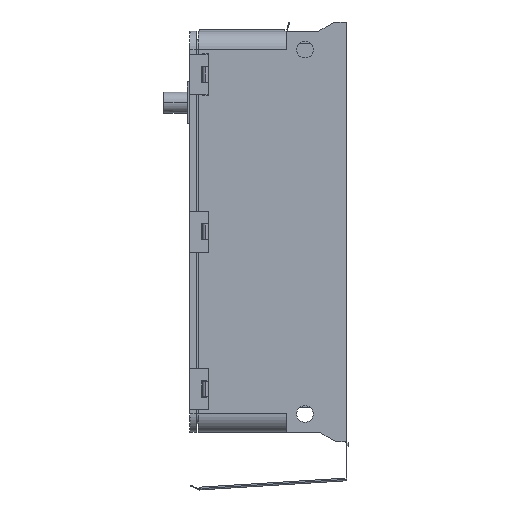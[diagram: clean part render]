
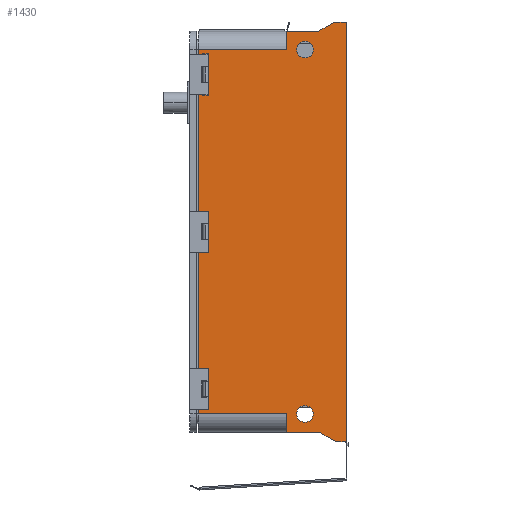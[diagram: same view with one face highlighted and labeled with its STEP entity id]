
A CAD part, left-side view. The second image highlights one B-rep face of the part: STEP entity #1430.
In plain terms, the highlighted planar face has unit normal (-1, 0, 0).
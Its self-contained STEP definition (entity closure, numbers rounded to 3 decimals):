
#1430=ADVANCED_FACE('',(#5397,#5398,#5399,#5400,#5401,#5402),#5403,.F.);
#5397=FACE_OUTER_BOUND('',#10780,.T.);
#5398=FACE_BOUND('',#10781,.T.);
#5399=FACE_BOUND('',#10782,.T.);
#5400=FACE_BOUND('',#10783,.T.);
#5401=FACE_BOUND('',#10784,.T.);
#5402=FACE_BOUND('',#10785,.T.);
#5403=PLANE('',#10786);
#10780=EDGE_LOOP('',(#29598,#29599,#29600,#29601,#29602,#29603,#29604,#29605,#29606,#29607,#29608,#29609));
#10781=EDGE_LOOP('',(#29610,#29611));
#10782=EDGE_LOOP('',(#29612,#29613));
#10783=EDGE_LOOP('',(#29614,#29615,#29616,#29617));
#10784=EDGE_LOOP('',(#29618,#29619,#29620,#29621));
#10785=EDGE_LOOP('',(#29622,#29623,#29624,#29625));
#10786=AXIS2_PLACEMENT_3D('',#29626,#29627,#29628);
#29598=ORIENTED_EDGE('',*,*,#41015,.F.);
#29599=ORIENTED_EDGE('',*,*,#42736,.F.);
#29600=ORIENTED_EDGE('',*,*,#42734,.F.);
#29601=ORIENTED_EDGE('',*,*,#42756,.T.);
#29602=ORIENTED_EDGE('',*,*,#42746,.T.);
#29603=ORIENTED_EDGE('',*,*,#42762,.F.);
#29604=ORIENTED_EDGE('',*,*,#42763,.F.);
#29605=ORIENTED_EDGE('',*,*,#40959,.F.);
#29606=ORIENTED_EDGE('',*,*,#40957,.T.);
#29607=ORIENTED_EDGE('',*,*,#42764,.F.);
#29608=ORIENTED_EDGE('',*,*,#42765,.T.);
#29609=ORIENTED_EDGE('',*,*,#42766,.F.);
#29610=ORIENTED_EDGE('',*,*,#42767,.F.);
#29611=ORIENTED_EDGE('',*,*,#42768,.F.);
#29612=ORIENTED_EDGE('',*,*,#42769,.F.);
#29613=ORIENTED_EDGE('',*,*,#42770,.F.);
#29614=ORIENTED_EDGE('',*,*,#42771,.T.);
#29615=ORIENTED_EDGE('',*,*,#42772,.T.);
#29616=ORIENTED_EDGE('',*,*,#42773,.T.);
#29617=ORIENTED_EDGE('',*,*,#42774,.T.);
#29618=ORIENTED_EDGE('',*,*,#42775,.T.);
#29619=ORIENTED_EDGE('',*,*,#42776,.T.);
#29620=ORIENTED_EDGE('',*,*,#42777,.T.);
#29621=ORIENTED_EDGE('',*,*,#42778,.T.);
#29622=ORIENTED_EDGE('',*,*,#42779,.T.);
#29623=ORIENTED_EDGE('',*,*,#42780,.T.);
#29624=ORIENTED_EDGE('',*,*,#42781,.T.);
#29625=ORIENTED_EDGE('',*,*,#42782,.T.);
#29626=CARTESIAN_POINT('',(-145.0,158.75,-203.0));
#29627=DIRECTION('',(1.0,0.0,0.0));
#29628=DIRECTION('',(0.0,1.0,0.0));
#40957=EDGE_CURVE('',#49167,#49165,#49168,.T.);
#40959=EDGE_CURVE('',#49167,#49170,#49171,.T.);
#41015=EDGE_CURVE('',#49274,#49276,#49277,.T.);
#42734=EDGE_CURVE('',#52035,#52037,#52038,.T.);
#42736=EDGE_CURVE('',#52037,#49274,#52040,.T.);
#42746=EDGE_CURVE('',#52057,#52055,#52058,.T.);
#42756=EDGE_CURVE('',#52035,#52057,#52072,.T.);
#42762=EDGE_CURVE('',#52081,#52055,#52082,.T.);
#42763=EDGE_CURVE('',#49170,#52081,#52083,.T.);
#42764=EDGE_CURVE('',#52084,#49165,#52085,.T.);
#42765=EDGE_CURVE('',#52084,#52086,#52087,.T.);
#42766=EDGE_CURVE('',#49276,#52086,#52088,.T.);
#42767=EDGE_CURVE('',#52089,#52090,#52091,.T.);
#42768=EDGE_CURVE('',#52090,#52089,#52092,.T.);
#42769=EDGE_CURVE('',#52093,#52094,#52095,.T.);
#42770=EDGE_CURVE('',#52094,#52093,#52096,.T.);
#42771=EDGE_CURVE('',#52097,#52098,#52099,.T.);
#42772=EDGE_CURVE('',#52098,#52100,#52101,.T.);
#42773=EDGE_CURVE('',#52100,#52102,#52103,.T.);
#42774=EDGE_CURVE('',#52102,#52097,#52104,.T.);
#42775=EDGE_CURVE('',#52105,#52106,#52107,.T.);
#42776=EDGE_CURVE('',#52106,#52108,#52109,.T.);
#42777=EDGE_CURVE('',#52108,#52110,#52111,.T.);
#42778=EDGE_CURVE('',#52110,#52105,#52112,.T.);
#42779=EDGE_CURVE('',#52113,#52114,#52115,.T.);
#42780=EDGE_CURVE('',#52114,#52116,#52117,.T.);
#42781=EDGE_CURVE('',#52116,#52118,#52119,.T.);
#42782=EDGE_CURVE('',#52118,#52113,#52120,.T.);
#49165=VERTEX_POINT('',#62113);
#49167=VERTEX_POINT('',#62115);
#49168=LINE('',#62116,#62117);
#49170=VERTEX_POINT('',#62119);
#49171=LINE('',#62120,#62121);
#49274=VERTEX_POINT('',#62272);
#49276=VERTEX_POINT('',#62275);
#49277=LINE('',#62276,#62277);
#52035=VERTEX_POINT('',#66464);
#52037=VERTEX_POINT('',#66467);
#52038=LINE('',#66468,#66469);
#52040=LINE('',#66472,#66473);
#52055=VERTEX_POINT('',#66492);
#52057=VERTEX_POINT('',#66495);
#52058=LINE('',#66496,#66497);
#52072=LINE('',#66519,#66520);
#52081=VERTEX_POINT('',#66531);
#52082=LINE('',#66532,#66533);
#52083=LINE('',#66534,#66535);
#52084=VERTEX_POINT('',#66536);
#52085=LINE('',#66537,#66538);
#52086=VERTEX_POINT('',#66539);
#52087=LINE('',#66540,#66541);
#52088=LINE('',#66542,#66543);
#52089=VERTEX_POINT('',#66544);
#52090=VERTEX_POINT('',#66545);
#52091=CIRCLE('',#66546,18.0);
#52092=CIRCLE('',#66547,18.0);
#52093=VERTEX_POINT('',#66548);
#52094=VERTEX_POINT('',#66549);
#52095=CIRCLE('',#66550,18.0);
#52096=CIRCLE('',#66551,18.0);
#52097=VERTEX_POINT('',#66552);
#52098=VERTEX_POINT('',#66553);
#52099=LINE('',#66554,#66555);
#52100=VERTEX_POINT('',#66556);
#52101=LINE('',#66557,#66558);
#52102=VERTEX_POINT('',#66559);
#52103=LINE('',#66560,#66561);
#52104=LINE('',#66562,#66563);
#52105=VERTEX_POINT('',#66564);
#52106=VERTEX_POINT('',#66565);
#52107=LINE('',#66566,#66567);
#52108=VERTEX_POINT('',#66568);
#52109=LINE('',#66569,#66570);
#52110=VERTEX_POINT('',#66571);
#52111=LINE('',#66572,#66573);
#52112=LINE('',#66574,#66575);
#52113=VERTEX_POINT('',#66576);
#52114=VERTEX_POINT('',#66577);
#52115=LINE('',#66578,#66579);
#52116=VERTEX_POINT('',#66580);
#52117=LINE('',#66581,#66582);
#52118=VERTEX_POINT('',#66583);
#52119=LINE('',#66584,#66585);
#52120=LINE('',#66586,#66587);
#62113=CARTESIAN_POINT('',(-145.0,319.5,192.0));
#62115=CARTESIAN_POINT('',(-145.0,128.0,192.0));
#62116=CARTESIAN_POINT('',(-145.0,128.0,192.0));
#62117=VECTOR('',#78533,191.5);
#62119=CARTESIAN_POINT('',(-145.0,128.0,232.0));
#62120=CARTESIAN_POINT('',(-145.0,128.0,192.0));
#62121=VECTOR('',#78537,40.0);
#62272=CARTESIAN_POINT('',(-145.0,56.0,-638.0));
#62275=CARTESIAN_POINT('',(-145.0,128.0,-638.0));
#62276=CARTESIAN_POINT('',(-145.0,56.0,-638.0));
#62277=VECTOR('',#78605,72.0);
#66464=CARTESIAN_POINT('',(-145.0,-2.0,-658.0));
#66467=CARTESIAN_POINT('',(-145.0,21.359,-658.0));
#66468=CARTESIAN_POINT('',(-145.0,-2.0,-658.0));
#66469=VECTOR('',#81104,23.359);
#66472=CARTESIAN_POINT('',(-145.0,21.359,-658.0));
#66473=VECTOR('',#81106,40.0);
#66492=CARTESIAN_POINT('',(-145.0,23.359,252.0));
#66495=CARTESIAN_POINT('',(-145.0,-2.0,252.0));
#66496=CARTESIAN_POINT('',(-145.0,-2.0,252.0));
#66497=VECTOR('',#81124,25.359);
#66519=CARTESIAN_POINT('',(-145.0,-2.0,-658.0));
#66520=VECTOR('',#81136,910.0);
#66531=CARTESIAN_POINT('',(-145.0,58.0,232.0));
#66532=CARTESIAN_POINT('',(-145.0,58.0,232.0));
#66533=VECTOR('',#81148,40.0);
#66534=CARTESIAN_POINT('',(-145.0,128.0,232.0));
#66535=VECTOR('',#81149,70.0);
#66536=CARTESIAN_POINT('',(-145.0,319.5,-598.0));
#66537=CARTESIAN_POINT('',(-145.0,319.5,-598.0));
#66538=VECTOR('',#81150,790.0);
#66539=CARTESIAN_POINT('',(-145.0,128.0,-598.0));
#66540=CARTESIAN_POINT('',(-145.0,319.5,-598.0));
#66541=VECTOR('',#81151,191.5);
#66542=CARTESIAN_POINT('',(-145.0,128.0,-638.0));
#66543=VECTOR('',#81152,40.0);
#66544=CARTESIAN_POINT('',(-145.0,88.0,174.0));
#66545=CARTESIAN_POINT('',(-145.0,88.0,210.0));
#66546=AXIS2_PLACEMENT_3D('',#81153,#81154,#81155);
#66547=AXIS2_PLACEMENT_3D('',#81156,#81157,#81158);
#66548=CARTESIAN_POINT('',(-145.0,88.0,-616.0));
#66549=CARTESIAN_POINT('',(-145.0,88.0,-580.0));
#66550=AXIS2_PLACEMENT_3D('',#81159,#81160,#81161);
#66551=AXIS2_PLACEMENT_3D('',#81162,#81163,#81164);
#66552=CARTESIAN_POINT('',(-145.0,309.3,-589.0));
#66553=CARTESIAN_POINT('',(-145.0,309.3,-499.0));
#66554=CARTESIAN_POINT('',(-145.0,309.3,-589.0));
#66555=VECTOR('',#81165,90.0);
#66556=CARTESIAN_POINT('',(-145.0,297.6,-499.0));
#66557=CARTESIAN_POINT('',(-145.0,309.3,-499.0));
#66558=VECTOR('',#81166,11.7);
#66559=CARTESIAN_POINT('',(-145.0,297.6,-589.0));
#66560=CARTESIAN_POINT('',(-145.0,297.6,-499.0));
#66561=VECTOR('',#81167,90.0);
#66562=CARTESIAN_POINT('',(-145.0,297.6,-589.0));
#66563=VECTOR('',#81168,11.7);
#66564=CARTESIAN_POINT('',(-145.0,309.3,-248.0));
#66565=CARTESIAN_POINT('',(-145.0,309.3,-158.0));
#66566=CARTESIAN_POINT('',(-145.0,309.3,-248.0));
#66567=VECTOR('',#81169,90.0);
#66568=CARTESIAN_POINT('',(-145.0,297.6,-158.0));
#66569=CARTESIAN_POINT('',(-145.0,309.3,-158.0));
#66570=VECTOR('',#81170,11.7);
#66571=CARTESIAN_POINT('',(-145.0,297.6,-248.0));
#66572=CARTESIAN_POINT('',(-145.0,297.6,-158.0));
#66573=VECTOR('',#81171,90.0);
#66574=CARTESIAN_POINT('',(-145.0,297.6,-248.0));
#66575=VECTOR('',#81172,11.7);
#66576=CARTESIAN_POINT('',(-145.0,309.3,93.0));
#66577=CARTESIAN_POINT('',(-145.0,309.3,183.0));
#66578=CARTESIAN_POINT('',(-145.0,309.3,93.0));
#66579=VECTOR('',#81173,90.0);
#66580=CARTESIAN_POINT('',(-145.0,297.6,183.0));
#66581=CARTESIAN_POINT('',(-145.0,309.3,183.0));
#66582=VECTOR('',#81174,11.7);
#66583=CARTESIAN_POINT('',(-145.0,297.6,93.0));
#66584=CARTESIAN_POINT('',(-145.0,297.6,183.0));
#66585=VECTOR('',#81175,90.0);
#66586=CARTESIAN_POINT('',(-145.0,297.6,93.0));
#66587=VECTOR('',#81176,11.7);
#78533=DIRECTION('',(0.0,1.0,0.0));
#78537=DIRECTION('',(0.0,0.0,1.0));
#78605=DIRECTION('',(0.0,1.0,0.0));
#81104=DIRECTION('',(0.0,1.0,0.0));
#81106=DIRECTION('',(0.0,0.866,0.5));
#81124=DIRECTION('',(0.0,1.0,0.0));
#81136=DIRECTION('',(0.0,0.0,1.0));
#81148=DIRECTION('',(0.0,-0.866,0.5));
#81149=DIRECTION('',(0.0,-1.0,0.0));
#81150=DIRECTION('',(0.0,0.0,1.0));
#81151=DIRECTION('',(0.0,-1.0,0.0));
#81152=DIRECTION('',(0.0,0.0,1.0));
#81153=CARTESIAN_POINT('',(-145.0,88.0,192.0));
#81154=DIRECTION('',(-1.0,0.0,0.0));
#81155=DIRECTION('',(0.0,0.0,-1.0));
#81156=CARTESIAN_POINT('',(-145.0,88.0,192.0));
#81157=DIRECTION('',(-1.0,0.0,0.0));
#81158=DIRECTION('',(0.0,0.0,1.0));
#81159=CARTESIAN_POINT('',(-145.0,88.0,-598.0));
#81160=DIRECTION('',(-1.0,0.0,0.0));
#81161=DIRECTION('',(0.0,0.0,-1.0));
#81162=CARTESIAN_POINT('',(-145.0,88.0,-598.0));
#81163=DIRECTION('',(-1.0,0.0,0.0));
#81164=DIRECTION('',(0.0,0.0,1.0));
#81165=DIRECTION('',(0.0,0.0,1.0));
#81166=DIRECTION('',(0.0,-1.0,0.0));
#81167=DIRECTION('',(0.0,0.0,-1.0));
#81168=DIRECTION('',(0.0,1.0,0.0));
#81169=DIRECTION('',(0.0,0.0,1.0));
#81170=DIRECTION('',(0.0,-1.0,0.0));
#81171=DIRECTION('',(0.0,0.0,-1.0));
#81172=DIRECTION('',(0.0,1.0,0.0));
#81173=DIRECTION('',(0.0,0.0,1.0));
#81174=DIRECTION('',(0.0,-1.0,0.0));
#81175=DIRECTION('',(0.0,0.0,-1.0));
#81176=DIRECTION('',(0.0,1.0,0.0));
